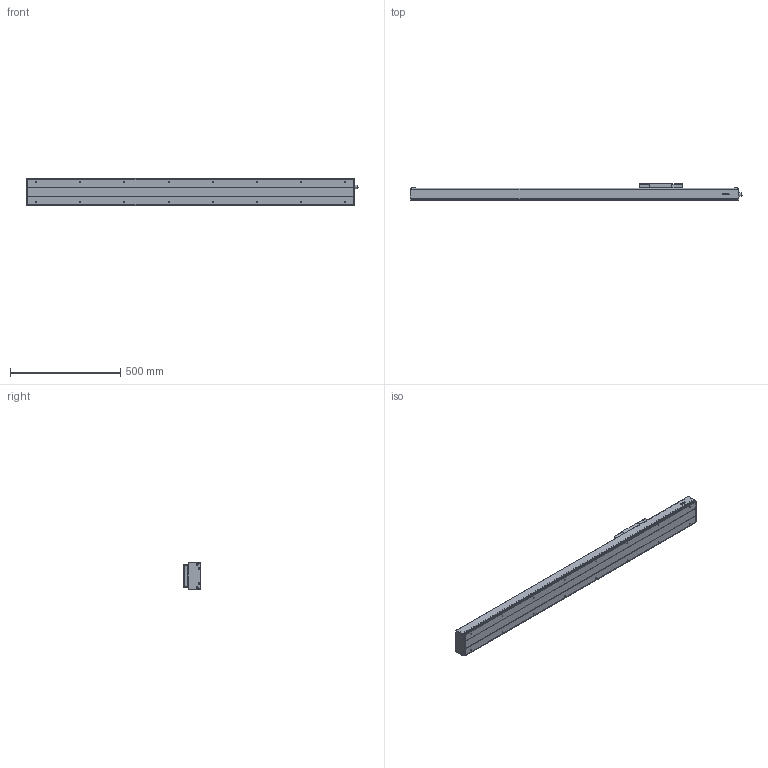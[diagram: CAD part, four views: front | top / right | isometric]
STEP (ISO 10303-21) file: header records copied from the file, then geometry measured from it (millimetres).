
FILE_DESCRIPTION(/* description */ (''),/* implementation_level */ '2;1');
FILE_NAME(/* name */ 'D:\混合母檔20191031\混和母檔\混和母檔\bin\Debug\Download\3D\KS120-10C-1000AFI\KS120-10C-1000AFI.stp',/* time_stamp */ '2019-11-04T15:18:53+08:00',/* author */ ('user'),/* organization */ (''),/* preprocessor_version */ 'ST-DEVELOPER v16.13',/* originating_system */ 'Autodesk Inventor 2018',/* authorisation */ '');
FILE_SCHEMA (('AUTOMOTIVE_DESIGN { 1 0 10303 214 3 1 1 }'));
Length unit declared in the file: millimetre
Products named in the file (3): KS120-10C-1000AFI; KS120-FI; KS120-SL
Assembly tree (2 placements, depth 2):
  KS120-10C-1000AFI
    KS120-FI
    KS120-SL
Bounding box: 1504.5 x 77 x 120 mm (x, y, z)
Volume: 3456957.4 mm3; surface area: 1161126 mm2
Topology: 4 solids, 11 shells, 1013 faces, 2608 edges, 1683 vertices
Faces by surface type: plane 575, cylinder 192, bspline 136, cone 92, torus 14, sphere 4
Full cylindrical faces by diameter (mm): 2.459 x6, 3.242 x4, 4 x32, 4.3 x4, 4.5 x12, 4.917 x14, 6 x6, 7 x4, 8 x9, 8.4 x12, 10.437 x1, 12 x2, 14 x1, 15 x1, 15.538 x1, 19 x1, 28 x1, 30 x1
Entity records: 33462 total; most frequent: CARTESIAN_POINT 10824, ORIENTED_EDGE 4600, DIRECTION 4222, EDGE_CURVE 2298, VERTEX_POINT 1583, LINE 1538, VECTOR 1538, AXIS2_PLACEMENT_3D 1342
